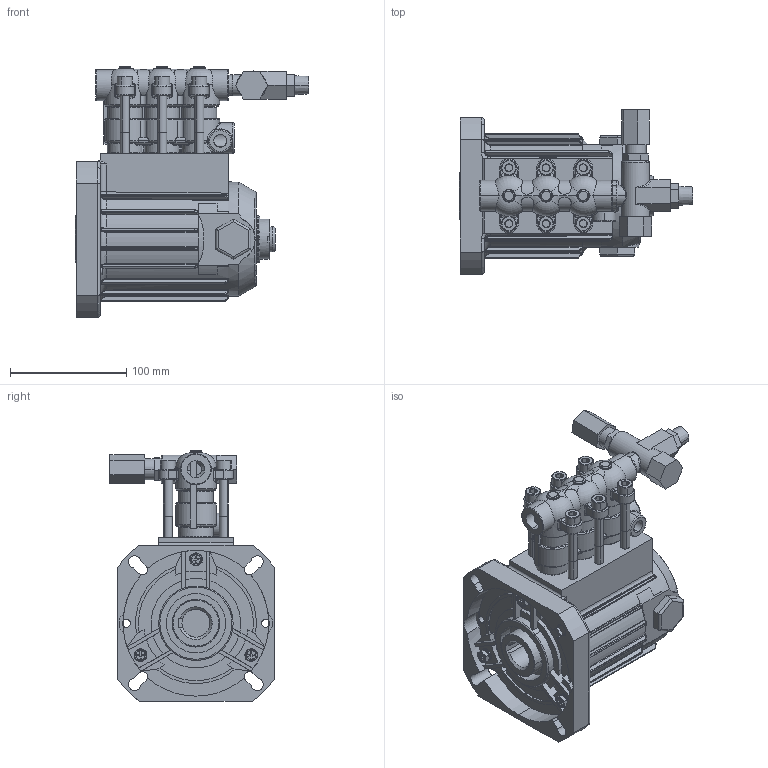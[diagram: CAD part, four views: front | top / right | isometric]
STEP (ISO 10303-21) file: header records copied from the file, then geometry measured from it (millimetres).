
FILE_DESCRIPTION (( 'STEP AP214' ), '1' );
FILE_NAME ('2 SF 09 ES.STEP', '2013-01-10T08:10:03', ( '' ), ( '' ), 'SwSTEP 2.0', 'SolidWorks 2012', '' );
FILE_SCHEMA (( 'AUTOMOTIVE_DESIGN' ));
Length unit declared in the file: millimetre
Products named in the file (1): 2 SF 09 ES
Bounding box: 200.5 x 141.25 x 215.71 mm (x, y, z)
Volume: 1676980.2 mm3; surface area: 213201.8 mm2
Topology: 1 solids, 8 shells, 2789 faces, 7423 edges, 4750 vertices
Faces by surface type: plane 1295, bspline 616, cylinder 456, torus 219, cone 141, sphere 62
Entity records: 130020 total; most frequent: CARTESIAN_POINT 47551, ORIENTED_EDGE 14758, DIRECTION 11701, EDGE_CURVE 7379, VERTEX_POINT 4734, LINE 4007, VECTOR 4007, AXIS2_PLACEMENT_3D 3847
